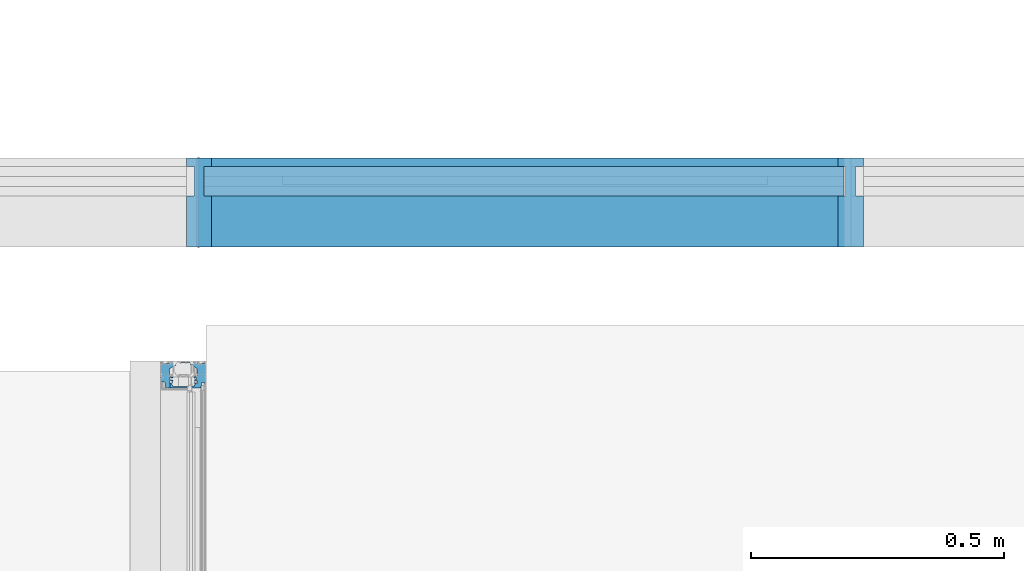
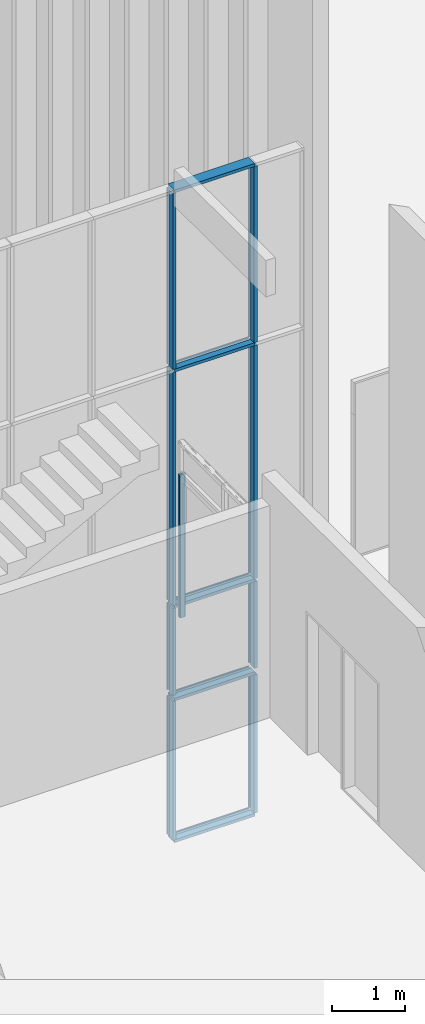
# One storey, part 4 of 62: 14 members, 2 elements without a shape of their own.
"""IFC2X3 building model written with IfcOpenShell, lengths in millimetres."""

from ifc_helpers import new_model, entity, si_unit, converted_unit, derived_unit, money_unit, direction, frame, origin_with_axes, place, context, subcontext, project, spatial, polyline, outline, extrude, material, type_object, element, aggregate, save


model = new_model("IFC2X3")

# Units and contexts
model_context = context("Model", 3, precision=0.01, world=origin_with_axes(), true_north=direction((0.0, 1.0)))
body_context = subcontext(model_context, "Body", "Model", "MODEL_VIEW")
ifc_project = project(units=[si_unit("LENGTHUNIT", "METRE", prefix="MILLI"), si_unit("AREAUNIT", "SQUARE_METRE"), si_unit("VOLUMEUNIT", "CUBIC_METRE"), converted_unit("PLANEANGLEUNIT", "DEGREE", entity("IfcPlaneAngleMeasure", 0.0174532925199), si_unit("PLANEANGLEUNIT", "RADIAN"), dimensions=[0, 0, 0, 0, 0, 0, 0]), si_unit("SOLIDANGLEUNIT", "STERADIAN"), money_unit("EUR"), converted_unit("TIMEUNIT", "Year", entity("IfcTimeMeasure", 31556926.0), si_unit("TIMEUNIT", "SECOND"), dimensions=[0, 0, 1, 0, 0, 0, 0]), si_unit("MASSUNIT", "GRAM", prefix="KILO"), si_unit("THERMODYNAMICTEMPERATUREUNIT", "DEGREE_CELSIUS"), si_unit("LUMINOUSINTENSITYUNIT", "LUMEN"), si_unit("ENERGYUNIT", "JOULE", prefix="MEGA"), derived_unit("THERMALCONDUCTANCEUNIT", [(si_unit("POWERUNIT", "WATT"), 1), (si_unit("LENGTHUNIT", "METRE"), -1), (si_unit("THERMODYNAMICTEMPERATUREUNIT", "KELVIN"), -1)]), derived_unit("SPECIFICHEATCAPACITYUNIT", [(si_unit("ENERGYUNIT", "JOULE"), 1), (si_unit("MASSUNIT", "GRAM", prefix="KILO"), -1), (si_unit("THERMODYNAMICTEMPERATUREUNIT", "KELVIN"), -1)]), derived_unit("MASSDENSITYUNIT", [(si_unit("MASSUNIT", "GRAM", prefix="KILO"), 1), (si_unit("VOLUMEUNIT", "CUBIC_METRE"), -1)])], contexts=[model_context])

# Site, building, storey
site_placement = place(None, origin_with_axes())
site = spatial("IfcSite", under=ifc_project, at=site_placement, Name="Puškini 31, Narva", CompositionType="ELEMENT")
building_placement = place(site_placement, origin_with_axes())
building = spatial("IfcBuilding", under=site, at=building_placement, Name="Narva Riigigümnaasium", CompositionType="ELEMENT")
storey_placement = place(building_placement, frame((0.0, 0.0, 660.0), z_axis=(0.0, 0.0, 1.0), x_axis=(1.0, 0.0, 0.0)))
storey = spatial("IfcBuildingStorey", under=building, at=storey_placement, Name="2.korrus +0.66", CompositionType="ELEMENT", Elevation=660.0)

# Curtain wall, member
curtain_wall_type = type_object("IfcCurtainWallType", Name="Curtain Wall Type", PredefinedType="NOTDEFINED")
curtain_wall_1_placement = place(storey_placement, frame((34855.0128096, 223200.000065, -2.45869393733e-05), z_axis=(0.0, 0.0, 1.0), x_axis=(1.0, 0.0, 0.0)))
curtain_wall_1 = element("IfcCurtainWall", 1, at=curtain_wall_1_placement, inside=storey, type_object=curtain_wall_type, Name="G-SKLF-50")
ifc_material = material(Name="ET-04_Alumiinium")
member_type_1 = type_object("IfcMemberType", Name="53 x 45", PredefinedType="MULLION")
member_1_placement = place(curtain_wall_1_placement, frame((0.00257308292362, 599.999999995, 0.0), z_axis=(0.0, 0.0, 1.0), x_axis=(4.28847155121e-06, 0.999999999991, 0.0)))
member_1 = element("IfcMember", 2, at=member_1_placement, type_object=member_type_1, material=ifc_material, Name="G-SKLF-50-raam", ObjectType="MULLION", context=body_context, shape_type="SweptSolid", body=[
    extrude(outline(polyline([(-40.50000729, -1.69982631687), (-41.5999999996, 0.000178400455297), (-44.9999999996, 0.000192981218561), (-45.0001779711, -41.4998070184), (-36.2001801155, -41.9998447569), (-35.7002260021, -52.6998469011), (-27.4002281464, -53.1998824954), (-26.9001791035, -41.7638846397), (-26.9001677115, -39.1074804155), (-25.2469591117, -38.5809843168), (-23.0019622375, -38.9999009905), (-22.5019740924, -41.7642622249), (-22.001986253, -44.5999052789), (-22.5019941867, -46.4499031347), (-20.7019579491, -37.999910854), (-26.0502216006, -36.9089802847), (-26.2501393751, -32.4998874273), (-22.6716821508, -33.3731078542), (-20.9001432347, -33.3999103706), (-20.7001346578, -31.3999112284), (-22.5001346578, -31.3999035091), (-25.4001269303, -29.5979672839), (-26.4981984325, -28.4998863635), (-26.9001157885, -26.9998846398), (-26.9000642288, -14.9770391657), (-17.4196174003, -8.77590124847), (-14.4500373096, -8.69993803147), (-14.9500330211, -7.69993588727), (-17.2400279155, -6.50940047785), (-18.7400098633, -2.29991963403), (-15.8500076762, -1.78993202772), (-21.7000008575, -0.199906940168), (-20.500005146, -1.19991208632), (-20.5000115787, -2.69991208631), (-25.0000137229, -3.19989278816), (-25.5000030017, -0.699890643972), (-29.5000008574, -0.199873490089), (-28.0000072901, -1.69987992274), (-27.0000171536, -3.99988421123), (-42.000021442, -4.99981988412), (-43.0000115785, -2.69981559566), (-40.50000729, -1.69982631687)])), frame((0.0, 0.0, 0.0), z_axis=(0.0, 0.0, 1.0), x_axis=(4.28847155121e-06, -0.999999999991, 0.0)), (0.0, 0.0, 1.0), 2400.00002459),
    extrude(outline(polyline([(-11.5049685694, -2.3999506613), (12.0049474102, -2.53402607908), (13.3524594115, -4.60005726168), (17.2399720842, -6.50954834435), (18.7399901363, -2.3000803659), (15.8399922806, -1.80006792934), (-15.0400008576, -0.199935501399), (-18.2400077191, -1.79992177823), (-18.7400242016, -5.64336864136), (-15.1572024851, -5.31843954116), (-11.5049685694, -2.3999506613)])), frame((0.0, 0.0, 0.0), z_axis=(0.0, 0.0, 1.0), x_axis=(4.28847155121e-06, -0.999999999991, 0.0)), (0.0, 0.0, 1.0), 2400.00002459),
    extrude(outline(polyline([(27.2128249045, -44.2351085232), (24.6998091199, -43.2001059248), (23.0045877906, -43.7249759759), (22.6997861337, -47.2500973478), (21.199785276, -47.4500909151), (20.9997734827, -50.2000900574), (-20.800204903, -50.3999107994), (-21.0001931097, -47.6499099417), (-22.500192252, -47.449903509), (-22.7001800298, -44.5999026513), (-24.7001796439, -43.1998940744), (-26.3954009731, -43.7247641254), (-26.7002281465, -53.1998854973), (26.6997718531, -53.2001145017), (27.2128249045, -44.2351085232)])), frame((0.0, 0.0, 0.0), z_axis=(0.0, 0.0, 1.0), x_axis=(4.28847155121e-06, -0.999999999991, 0.0)), (0.0, 0.0, 1.0), 2400.00002459),
    extrude(outline(polyline([(44.9999999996, -0.000192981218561), (41.5999999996, -0.000178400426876), (40.4999952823, -1.10017368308), (41.9999927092, -1.70018011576), (42.9999828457, -4.00018440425), (27.9999785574, -5.00012007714), (26.9999884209, -2.70011578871), (30.4999927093, -1.70013079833), (25.9999991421, -0.200111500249), (25.4999884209, -2.70010935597), (20.9999862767, -3.20009005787), (20.4999948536, -1.20008791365), (22.1999948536, -1.20009520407), (15.8499991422, -0.200067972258), (18.5499923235, -1.79007955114), (18.7499734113, -6.20008040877), (15.1571568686, -5.31856954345), (13.9499669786, -7.70005982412), (17.154582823, -8.70007356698), (26.6648972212, -14.5532448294), (26.899884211, -27.0001153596), (26.4979539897, -28.500113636), (25.3998730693, -29.5981851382), (23.8998713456, -30.0001024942), (20.6998653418, -31.4000887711), (20.6998576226, -33.200088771), (22.5713957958, -33.4000967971), (25.0498627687, -32.0001074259), (26.2498425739, -36.709204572), (22.6655652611, -36.9091892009), (20.7015313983, -46.7000884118), (22.5015525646, -41.7644552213), (22.5015622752, -39.5000961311), (24.8398896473, -39.0001061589), (26.4936558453, -38.579740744), (26.8998208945, -41.7644744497), (27.3998087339, -44.6001175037), (26.8997739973, -52.7001153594), (35.199771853, -53.2001509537), (35.6998177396, -42.500153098), (42.1998198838, -42.0001809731), (42.6997718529, -53.2001831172), (44.9997718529, -53.2001929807), (44.9999999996, -0.000192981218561)])), frame((0.0, 0.0, 0.0), z_axis=(0.0, 0.0, 1.0), x_axis=(4.28847155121e-06, -0.999999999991, 0.0)), (0.0, 0.0, 1.0), 2400.00002459),
])
aggregate(curtain_wall_1, [member_1])

# Curtain wall, members
curtain_wall_2_placement = place(storey_placement, frame((29287.8078111, 224154.987122, -3960.0), z_axis=(0.0, 0.0, 1.0), x_axis=(1.0, 0.0, 0.0)))
curtain_wall_2 = element("IfcCurtainWall", 3, at=curtain_wall_2_placement, inside=storey, type_object=curtain_wall_type, Name="G-KLF-05")
member_type_2 = type_object("IfcMemberType", Name="Mullion Frame 50 x 176", PredefinedType="MULLION")
member_2_placement = place(curtain_wall_2_placement, frame((6886.14537815, 0.0, 7920.0), z_axis=(0.0, 0.0, 1.0), x_axis=(1.0, 0.0, 0.0)))
member_2 = element("IfcMember", 4, at=member_2_placement, type_object=member_type_2, material=ifc_material, Name="klaasfassaadi raam", ObjectType="MULLION", context=body_context, shape_type="SweptSolid", body=[
    extrude(outline(polyline([(-10.0, -29.0), (-25.0, -29.0), (-25.0, -130.0), (25.0, -130.0), (25.0, -29.0), (10.0, -29.0), (10.0, 29.0), (25.0, 29.0), (25.0, 46.0), (-25.0, 46.0), (-25.0, 29.0), (-10.0, 29.0), (-10.0, -29.0)])), frame((0.0, 0.0, 25.0), z_axis=(0.0, 0.0, 1.0), x_axis=(1.0, 0.0, 0.0)), (0.0, 0.0, 1.0), 2955.00003725),
])
member_3_placement = place(curtain_wall_2_placement, frame((5597.9776056, 0.0, 7920.0), z_axis=(0.0, 0.0, 1.0), x_axis=(1.0, 0.0, 0.0)))
member_3 = element("IfcMember", 5, at=member_3_placement, type_object=member_type_2, material=ifc_material, Name="klaasfassaadi raam", ObjectType="MULLION", context=body_context, shape_type="SweptSolid", body=[
    extrude(outline(polyline([(-10.0, -29.0), (-25.0, -29.0), (-25.0, -130.0), (25.0, -130.0), (25.0, -29.0), (10.0, -29.0), (10.0, 29.0), (25.0, 29.0), (25.0, 46.0), (-25.0, 46.0), (-25.0, 29.0), (-10.0, 29.0), (-10.0, -29.0)])), frame((0.0, 0.0, 25.0), z_axis=(0.0, 0.0, 1.0), x_axis=(1.0, 0.0, 0.0)), (0.0, 0.0, 1.0), 2955.00003725),
])
member_4_placement = place(curtain_wall_2_placement, frame((6886.14535642, 0.0, 3960.0), z_axis=(5.48690969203e-09, 0.0, 1.0), x_axis=(1.0, 0.0, -5.48690969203e-09)))
member_4 = element("IfcMember", 6, at=member_4_placement, type_object=member_type_2, material=ifc_material, Name="klaasfassaadi raam", ObjectType="MULLION", context=body_context, shape_type="SweptSolid", body=[
    extrude(outline(polyline([(-10.0, -29.0), (-25.0, -29.0), (-25.0, -130.0), (25.0, -130.0), (25.0, -29.0), (10.0, -29.0), (10.0, 29.0), (25.0, 29.0), (25.0, 46.0), (-25.0, 46.0), (-25.0, 29.0), (-10.0, 29.0), (-10.0, -29.0)])), frame((0.0, 0.0, 24.9999998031), z_axis=(0.0, 0.0, 1.0), x_axis=(1.0, 0.0, 5.48690969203e-09)), (0.0, 0.0, 1.0), 3910.00000039),
])
member_5_placement = place(curtain_wall_2_placement, frame((5597.99317112, 0.0, 0.0), z_axis=(0.0, 0.0, 1.0), x_axis=(1.0, 0.0, 0.0)))
member_5 = element("IfcMember", 7, at=member_5_placement, type_object=member_type_2, material=ifc_material, Name="klaasfassaadi raam", ObjectType="MULLION", context=body_context, shape_type="SweptSolid", body=[
    extrude(outline(polyline([(-10.0, -29.0), (-25.0, -29.0), (-25.0, -130.0), (25.0, -130.0), (25.0, -29.0), (10.0, -29.0), (10.0, 29.0), (25.0, 29.0), (25.0, 46.0), (-25.0, 46.0), (-25.0, 29.0), (-10.0, 29.0), (-10.0, -29.0)])), frame((0.0, 0.0, 50.0), z_axis=(0.0, 0.0, 1.0), x_axis=(1.0, 0.0, 0.0)), (0.0, 0.0, 1.0), 2325.00000127),
])
member_6_placement = place(curtain_wall_2_placement, frame((6886.1453749, 0.0, 2480.0), z_axis=(-1.24847687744e-08, 0.0, 1.0), x_axis=(1.0, 0.0, 1.24847687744e-08)))
member_6 = element("IfcMember", 8, at=member_6_placement, type_object=member_type_2, material=ifc_material, Name="klaasfassaadi raam", ObjectType="MULLION", context=body_context, shape_type="SweptSolid", body=[
    extrude(outline(polyline([(-10.0, -29.0), (-25.0, -29.0), (-25.0, -130.0), (25.0, -130.0), (25.0, -29.0), (10.0, -29.0), (10.0, 29.0), (25.0, 29.0), (25.0, 46.0), (-25.0, 46.0), (-25.0, 29.0), (-10.0, 29.0), (-10.0, -29.0)])), frame((0.0, 0.0, 0.0), z_axis=(0.0, 0.0, 1.0), x_axis=(1.0, 0.0, -1.24847687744e-08)), (0.0, 0.0, 1.0), 1455.0),
])
member_7_placement = place(curtain_wall_2_placement, frame((6886.14537015, 0.0, 0.0), z_axis=(1.915510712e-09, 0.0, 1.0), x_axis=(1.0, 0.0, -1.915510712e-09)))
member_7 = element("IfcMember", 9, at=member_7_placement, type_object=member_type_2, material=ifc_material, Name="klaasfassaadi raam", ObjectType="MULLION", context=body_context, shape_type="SweptSolid", body=[
    extrude(outline(polyline([(-10.0, -29.0), (-25.0, -29.0), (-25.0, -130.0), (25.0, -130.0), (25.0, -29.0), (10.0, -29.0), (10.0, 29.0), (25.0, 29.0), (25.0, 46.0), (-25.0, 46.0), (-25.0, 29.0), (-10.0, 29.0), (-10.0, -29.0)])), frame((0.0, 0.0, 50.0), z_axis=(0.0, 0.0, 1.0), x_axis=(1.0, 0.0, 1.915510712e-09)), (0.0, 0.0, 1.0), 2325.00000127),
])
member_8_placement = place(curtain_wall_2_placement, frame((5597.9776131, 0.0, 2480.0), z_axis=(-7.23716582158e-10, 0.0, 1.0), x_axis=(1.0, 0.0, 7.23716582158e-10)))
member_8 = element("IfcMember", 10, at=member_8_placement, type_object=member_type_2, material=ifc_material, Name="klaasfassaadi raam", ObjectType="MULLION", context=body_context, shape_type="SweptSolid", body=[
    extrude(outline(polyline([(-10.0, -29.0), (-25.0, -29.0), (-25.0, -130.0), (25.0, -130.0), (25.0, -29.0), (10.0, -29.0), (10.0, 29.0), (25.0, 29.0), (25.0, 46.0), (-25.0, 46.0), (-25.0, 29.0), (-10.0, 29.0), (-10.0, -29.0)])), frame((0.0, 0.0, 0.0), z_axis=(0.0, 0.0, 1.0), x_axis=(1.0, 0.0, -7.23716582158e-10)), (0.0, 0.0, 1.0), 1455.0),
])
member_9_placement = place(curtain_wall_2_placement, frame((5597.97761203, 0.0, 3960.0), z_axis=(-1.62332997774e-09, 0.0, 1.0), x_axis=(1.0, 0.0, 1.62332997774e-09)))
member_9 = element("IfcMember", 11, at=member_9_placement, type_object=member_type_2, material=ifc_material, Name="klaasfassaadi raam", ObjectType="MULLION", context=body_context, shape_type="SweptSolid", body=[
    extrude(outline(polyline([(-10.0, -29.0), (-25.0, -29.0), (-25.0, -130.0), (25.0, -130.0), (25.0, -29.0), (10.0, -29.0), (10.0, 29.0), (25.0, 29.0), (25.0, 46.0), (-25.0, 46.0), (-25.0, 29.0), (-10.0, 29.0), (-10.0, -29.0)])), frame((0.0, 0.0, 24.9999998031), z_axis=(0.0, 0.0, 1.0), x_axis=(1.0, 0.0, -1.62332997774e-09)), (0.0, 0.0, 1.0), 3910.00000039),
])
member_type_3 = type_object("IfcMemberType", Name="Boundary Frame 50 x 176", PredefinedType="MULLION")
member_10_placement = place(curtain_wall_2_placement, frame((5597.9776056, 0.0, 10950.0000373), z_axis=(1.0, 0.0, 0.0), x_axis=(0.0, 0.0, -1.0)))
member_10 = element("IfcMember", 12, at=member_10_placement, type_object=member_type_3, material=ifc_material, Name="klaasfassaadi raam", ObjectType="MULLION", context=body_context, shape_type="SweptSolid", body=[
    extrude(outline(polyline([(29.0, 35.0), (-29.0, 35.0), (-29.0, 50.0), (-46.0, 50.0), (-46.0, 0.0), (130.0, 0.0), (130.0, 50.0), (29.0, 50.0), (29.0, 35.0)])), frame((0.0, 0.0, 0.0), z_axis=(0.0, 0.0, 1.0), x_axis=(0.0, -1.0, 0.0)), (0.0, 0.0, 1.0), 1275.00826943),
])
member_11_placement = place(curtain_wall_2_placement, frame((6872.98587503, 0.0, 2400.00000127), z_axis=(-1.0, 0.0, 0.0), x_axis=(0.0, 0.0, 1.0)))
member_11 = element("IfcMember", 13, at=member_11_placement, type_object=member_type_3, material=ifc_material, Name="klaasfassaadi raam", ObjectType="MULLION", context=body_context, shape_type="SweptSolid", body=[
    extrude(outline(polyline([(-29.0, 10.0), (-29.0, 25.0), (-130.0, 25.0), (-130.0, -25.0), (-29.0, -25.0), (-29.0, -10.0), (29.0, -10.0), (29.0, -25.0), (46.0, -25.0), (46.0, 25.0), (29.0, 25.0), (29.0, 10.0), (-29.0, 10.0)])), frame((0.0, 0.0, 0.0), z_axis=(0.0, 0.0, 1.0), x_axis=(0.0, 1.0, 0.0)), (0.0, 0.0, 1.0), 1274.99270391),
])
member_12_placement = place(curtain_wall_2_placement, frame((6872.98587503, 0.0, 0.0), z_axis=(-1.0, 0.0, 0.0), x_axis=(0.0, 0.0, 1.0)))
member_12 = element("IfcMember", 14, at=member_12_placement, type_object=member_type_3, material=ifc_material, Name="klaasfassaadi raam", ObjectType="MULLION", context=body_context, shape_type="SweptSolid", body=[
    extrude(outline(polyline([(-29.0, -35.0), (29.0, -35.0), (29.0, -50.0), (46.0, -50.0), (46.0, 0.0), (-130.0, 0.0), (-130.0, -50.0), (-29.0, -50.0), (-29.0, -35.0)])), frame((0.0, 0.0, 0.0), z_axis=(0.0, 0.0, 1.0), x_axis=(0.0, 1.0, 0.0)), (0.0, 0.0, 1.0), 1274.99270391),
])
member_13_placement = place(curtain_wall_2_placement, frame((6872.98587503, 0.0, 3960.0), z_axis=(-1.0, 0.0, 0.0), x_axis=(0.0, 0.0, 1.0)))
member_13 = element("IfcMember", 15, at=member_13_placement, type_object=member_type_3, material=ifc_material, Name="klaasfassaadi raam", ObjectType="MULLION", context=body_context, shape_type="SweptSolid", body=[
    extrude(outline(polyline([(-29.0, 10.0), (-29.0, 25.0), (-130.0, 25.0), (-130.0, -25.0), (-29.0, -25.0), (-29.0, -10.0), (29.0, -10.0), (29.0, -25.0), (46.0, -25.0), (46.0, 25.0), (29.0, 25.0), (29.0, 10.0), (-29.0, 10.0)])), frame((0.0, 0.0, 0.0), z_axis=(0.0, 0.0, 1.0), x_axis=(0.0, 1.0, 0.0)), (0.0, 0.0, 1.0), 1275.008263),
])
member_14_placement = place(curtain_wall_2_placement, frame((6872.98587503, 0.0, 7920.0), z_axis=(-1.0, 0.0, 0.0), x_axis=(0.0, 0.0, 1.0)))
member_14 = element("IfcMember", 16, at=member_14_placement, type_object=member_type_3, material=ifc_material, Name="klaasfassaadi raam", ObjectType="MULLION", context=body_context, shape_type="SweptSolid", body=[
    extrude(outline(polyline([(-29.0, 10.0), (-29.0, 25.0), (-130.0, 25.0), (-130.0, -25.0), (-29.0, -25.0), (-29.0, -10.0), (29.0, -10.0), (29.0, -25.0), (46.0, -25.0), (46.0, 25.0), (29.0, 25.0), (29.0, 10.0), (-29.0, 10.0)])), frame((0.0, 0.0, 0.0), z_axis=(0.0, 0.0, 1.0), x_axis=(0.0, 1.0, 0.0)), (0.0, 0.0, 1.0), 1275.008263),
])
aggregate(curtain_wall_2, [member_2, member_10, member_3, member_4, member_11, member_5, member_6, member_12, member_7, member_8, member_13, member_14, member_9])

save(model, "model.ifc")
